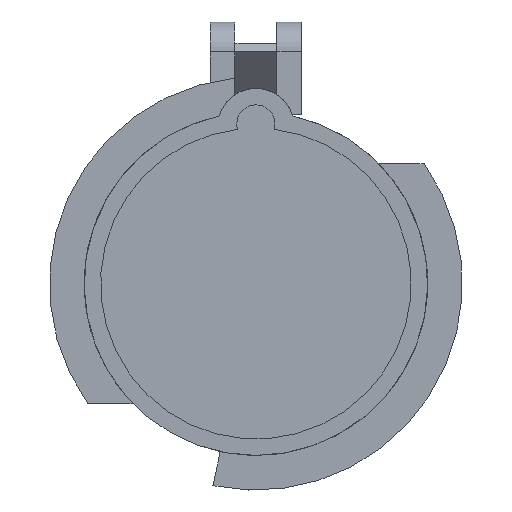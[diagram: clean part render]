
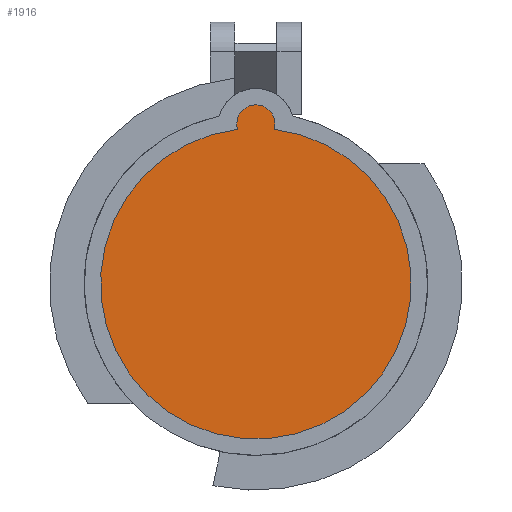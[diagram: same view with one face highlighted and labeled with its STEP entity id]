
A CAD part, front view. The second image highlights one B-rep face of the part: STEP entity #1916.
In plain terms, the highlighted planar face has unit normal (0, -1, 0).
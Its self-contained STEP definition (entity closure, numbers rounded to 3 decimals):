
#1074=CARTESIAN_POINT('',(0.,39.,29.3));
#1075=DIRECTION('',(0.,-1.,0.));
#1076=DIRECTION('',(0.958,0.,-0.285));
#1077=AXIS2_PLACEMENT_3D('',#1074,#1075,#1076);
#1105=CARTESIAN_POINT('',(0.,39.,0.));
#1106=DIRECTION('',(0.,-1.,0.));
#1107=DIRECTION('',(-0.118,0.,0.993));
#1108=AXIS2_PLACEMENT_3D('',#1105,#1106,#1107);
#1208=CARTESIAN_POINT('',(3.355,39.,28.302));
#1210=VERTEX_POINT('',#1208);
#1212=CARTESIAN_POINT('',(-3.355,39.,28.302));
#1214=VERTEX_POINT('',#1212);
#1906=CARTESIAN_POINT('',(0.,39.,0.));
#1907=DIRECTION('',(0.,-1.,0.));
#1908=DIRECTION('',(0.,0.,-1.));
#1909=AXIS2_PLACEMENT_3D('',#1906,#1907,#1908);
#1910=PLANE('3261',#1909);
#1911=ORIENTED_EDGE('3561',*,*,#1896,.F.);
#1913=ORIENTED_EDGE('3456',*,*,#1912,.F.);
#1914=EDGE_LOOP('3261',(#1911,#1913));
#1915=FACE_OUTER_BOUND('3261',#1914,.F.);
#1078=CIRCLE('3561',#1077,3.5);
#1109=CIRCLE('3456',#1108,28.5);
#1896=EDGE_CURVE('3561',#1210,#1214,#1078,.T.);
#1912=EDGE_CURVE('3456',#1214,#1210,#1109,.T.);
#1916=ADVANCED_FACE('3261',(#1915),#1910,.T.);
